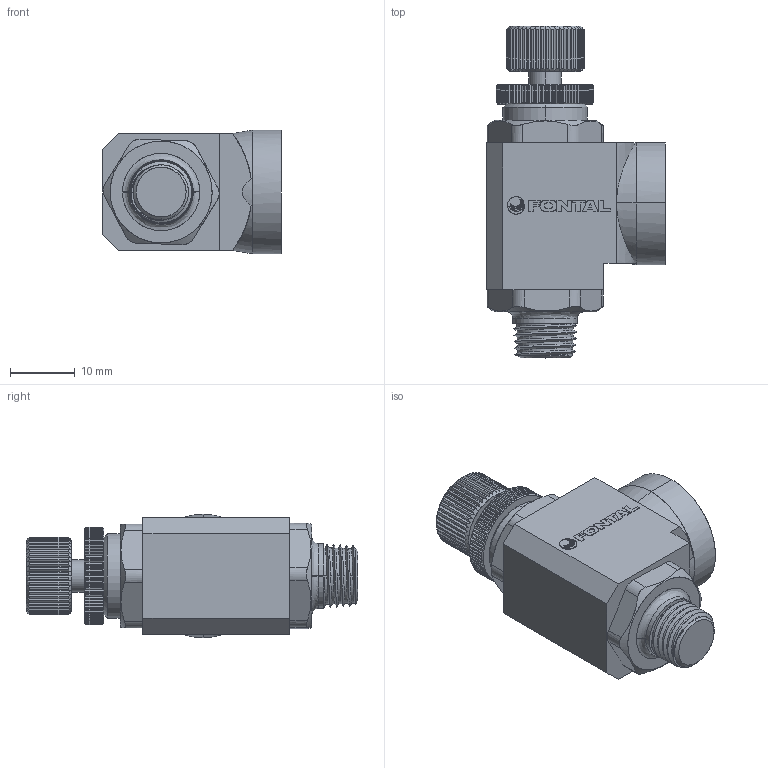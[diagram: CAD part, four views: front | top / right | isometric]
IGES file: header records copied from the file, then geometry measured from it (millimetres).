
Start section: SolidWorks IGES file using analytic representation for surfaces
Global section: file name: D:\Custom\3D繪製\Z-H\2H\SPE-2H-1.IGS,1; native system: 5HSolidWorks 2014; preprocessor: SolidWorks 2014; author: Chieh_Lu; date: 160115.031848; units: millimetre
Bounding box: 27.5 x 51.1 x 19 mm (x, y, z)
Surface area: 6368.1 mm2 (no closed solid volume)
Topology: 0 solids, 0 shells, 763 faces, 4654 edges, 4648 vertices
Faces by surface type: bspline 385, revolution 378
